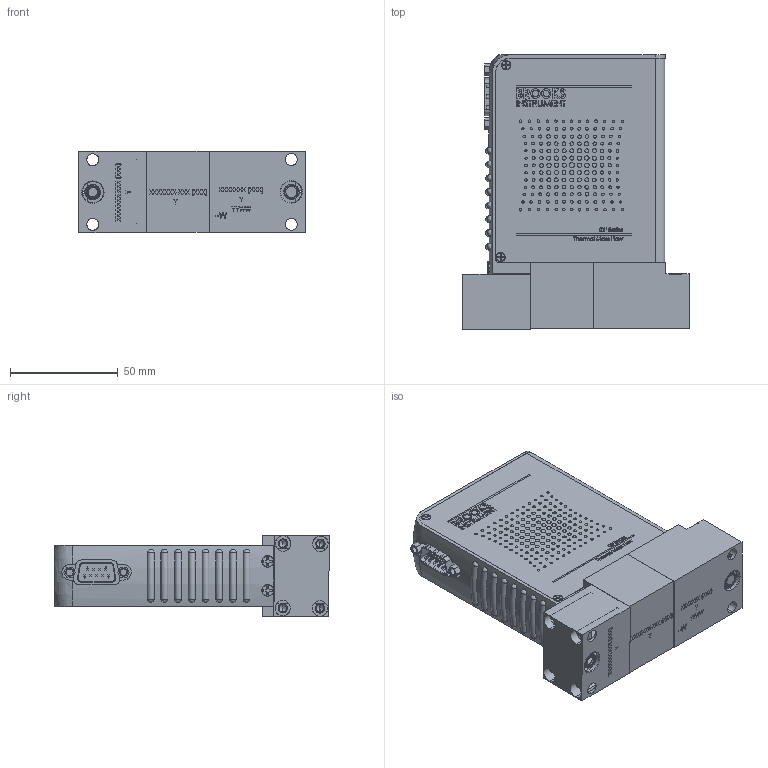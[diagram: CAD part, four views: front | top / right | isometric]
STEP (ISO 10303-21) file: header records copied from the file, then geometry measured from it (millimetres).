
FILE_DESCRIPTION (( 'STEP AP203' ), '1' );
FILE_NAME ('GF100-GF120-GF125-BX-SX.STEP', '2023-07-21T17:42:06', ( '' ), ( '' ), 'SwSTEP 2.0', 'SolidWorks 2020', '' );
FILE_SCHEMA (( 'CONFIG_CONTROL_DESIGN' ));
Length unit declared in the file: inch
Products named in the file (1): GF100-GF120-GF125-BX-SX
Bounding box: 104.95 x 127.22 x 37.76 mm (x, y, z)
Volume: 82717.3 mm3; surface area: 89414.4 mm2
Topology: 64 solids, 64 shells, 3966 faces, 9777 edges, 6408 vertices
Faces by surface type: plane 2303, cylinder 952, bspline 528, cone 135, torus 44, sphere 4
Entity records: 144985 total; most frequent: CARTESIAN_POINT 52707, ORIENTED_EDGE 19506, DIRECTION 17555, EDGE_CURVE 9753, VERTEX_POINT 6408, LINE 6399, VECTOR 6399, AXIS2_PLACEMENT_3D 5578
